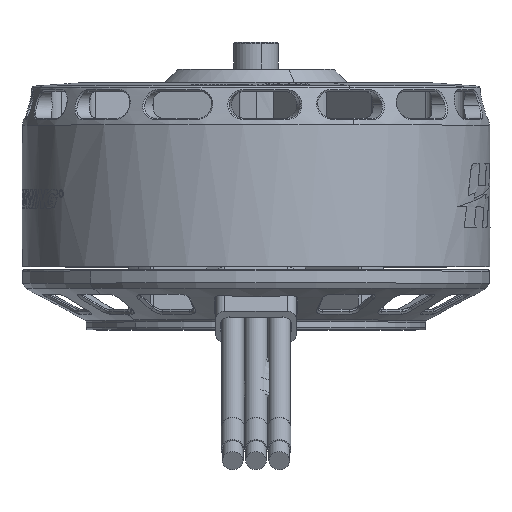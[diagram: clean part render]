
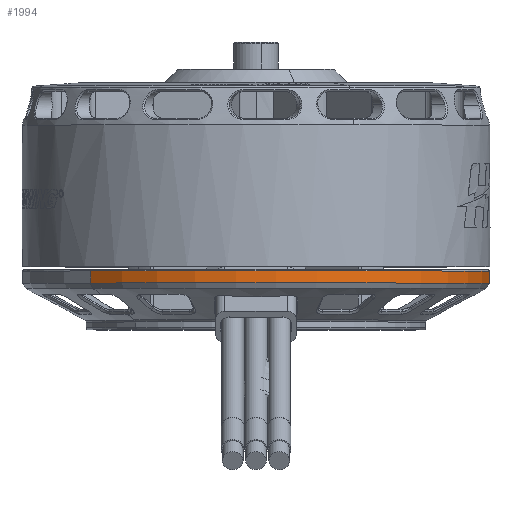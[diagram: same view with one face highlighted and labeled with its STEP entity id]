
A CAD part, top view. The second image highlights one B-rep face of the part: STEP entity #1994.
In plain terms, the highlighted cylindrical face has radius 52.25 mm (diameter 104.5 mm), a partial arc.
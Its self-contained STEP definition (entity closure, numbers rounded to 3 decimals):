
#1994 = ADVANCED_FACE ( 'NONE', ( #63355 ), #34331, .T. ) ;
#4669 = CARTESIAN_POINT ( 'NONE',  ( 0., -20.887, 0. ) ) ;
#9466 = CARTESIAN_POINT ( 'NONE',  ( 36.946, 8.003, -36.946 ) ) ;
#10159 = EDGE_CURVE ( 'NONE', #116285, #55190, #29924, .T. ) ;
#17997 = VECTOR ( 'NONE', #47898, 1000. ) ;
#21383 = AXIS2_PLACEMENT_3D ( 'NONE', #78206, #56304, #114896 ) ;
#24663 = DIRECTION ( 'NONE',  ( 0.707, 0., -0.707 ) ) ;
#29924 = CIRCLE ( 'NONE', #21383, 52.25 ) ;
#31918 = DIRECTION ( 'NONE',  ( 0.707, 0., -0.707 ) ) ;
#34192 = VECTOR ( 'NONE', #78887, 1000. ) ;
#34331 = CYLINDRICAL_SURFACE ( 'NONE', #89159, 52.25 ) ;
#35423 = EDGE_CURVE ( 'NONE', #89889, #55190, #125813, .T. ) ;
#47898 = DIRECTION ( 'NONE',  ( 0., -1., 0. ) ) ;
#54179 = EDGE_CURVE ( 'NONE', #76039, #89889, #126303, .T. ) ;
#55190 = VERTEX_POINT ( 'NONE', #79638 ) ;
#56304 = DIRECTION ( 'NONE',  ( 0., -1., 0. ) ) ;
#60198 = LINE ( 'NONE', #80147, #34192 ) ;
#61833 = CARTESIAN_POINT ( 'NONE',  ( -36.946, 10.7, 36.946 ) ) ;
#62073 = ORIENTED_EDGE ( 'NONE', *, *, #35423, .T. ) ;
#63355 = FACE_OUTER_BOUND ( 'NONE', #120351, .T. ) ;
#69297 = ORIENTED_EDGE ( 'NONE', *, *, #115125, .F. ) ;
#71248 = DIRECTION ( 'NONE',  ( 0., -1., 0. ) ) ;
#73648 = DIRECTION ( 'NONE',  ( 0., -1., 0. ) ) ;
#76039 = VERTEX_POINT ( 'NONE', #81369 ) ;
#78206 = CARTESIAN_POINT ( 'NONE',  ( 0., 8.003, 0. ) ) ;
#78887 = DIRECTION ( 'NONE',  ( 0., -1., 0. ) ) ;
#79638 = CARTESIAN_POINT ( 'NONE',  ( -36.946, 8.003, 36.946 ) ) ;
#80147 = CARTESIAN_POINT ( 'NONE',  ( 36.946, -20.887, -36.946 ) ) ;
#81369 = CARTESIAN_POINT ( 'NONE',  ( 36.946, 10.7, -36.946 ) ) ;
#81513 = CARTESIAN_POINT ( 'NONE',  ( 0., 10.7, 0. ) ) ;
#85924 = CARTESIAN_POINT ( 'NONE',  ( -36.946, -20.887, 36.946 ) ) ;
#89159 = AXIS2_PLACEMENT_3D ( 'NONE', #4669, #73648, #24663 ) ;
#89889 = VERTEX_POINT ( 'NONE', #61833 ) ;
#95167 = ORIENTED_EDGE ( 'NONE', *, *, #54179, .T. ) ;
#104463 = ORIENTED_EDGE ( 'NONE', *, *, #10159, .F. ) ;
#114896 = DIRECTION ( 'NONE',  ( 0.707, 0., -0.707 ) ) ;
#115125 = EDGE_CURVE ( 'NONE', #76039, #116285, #60198, .T. ) ;
#116285 = VERTEX_POINT ( 'NONE', #9466 ) ;
#120351 = EDGE_LOOP ( 'NONE', ( #95167, #62073, #104463, #69297 ) ) ;
#125813 = LINE ( 'NONE', #85924, #17997 ) ;
#126303 = CIRCLE ( 'NONE', #126581, 52.25 ) ;
#126581 = AXIS2_PLACEMENT_3D ( 'NONE', #81513, #71248, #31918 ) ;
